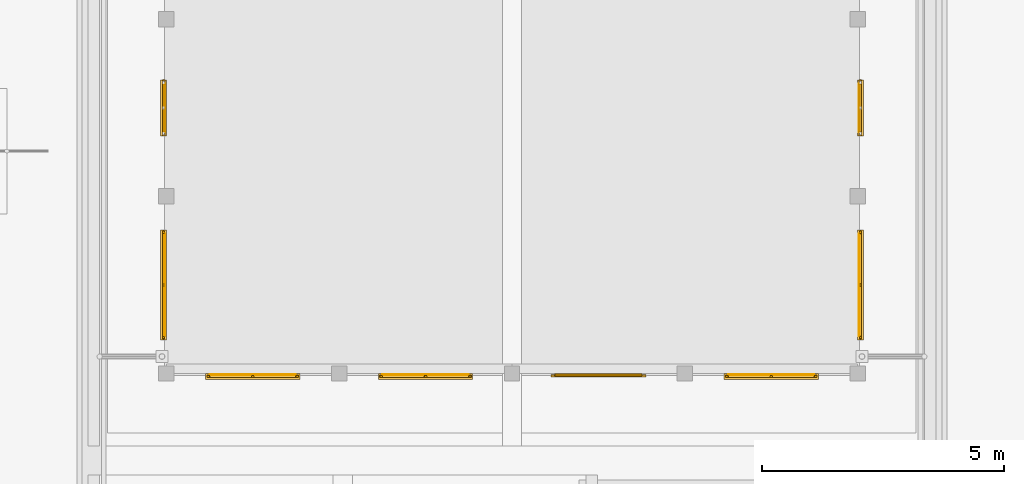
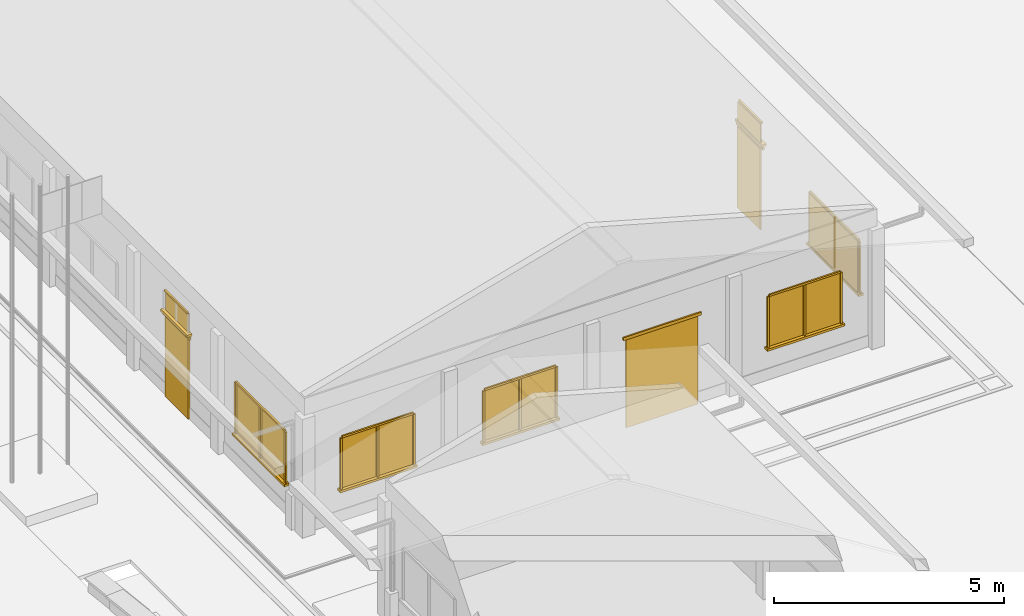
# One storey, part 53 of 177: 36 windows, 6 doors.
"""IFC4 building model written with IfcOpenShell, lengths in metres."""

from ifc_helpers import new_model, si_unit, origin, origin_with_axes, place, context, subcontext, project, spatial, triangles, element, save


model = new_model("IFC4")

# Units and contexts
model_context = context("Model", 3, precision=1e-05, world=origin_with_axes())
body_context = subcontext(model_context, "Body", "Model", "MODEL_VIEW")
ifc_project = project(units=[si_unit("LENGTHUNIT", "METRE"), si_unit("AREAUNIT", "SQUARE_METRE"), si_unit("VOLUMEUNIT", "CUBIC_METRE"), si_unit("PLANEANGLEUNIT", "RADIAN")], contexts=[model_context])

# Site, building, storey
site_placement = place(None, origin_with_axes())
site = spatial("IfcSite", under=ifc_project, at=site_placement, Name="Predio Los Mangos - Morales, San Martín", CompositionType="ELEMENT")
building_placement = place(site_placement, origin())
building = spatial("IfcBuilding", under=site, at=building_placement, Name="Hogar de Refugio Temporal", CompositionType="ELEMENT")
storey_placement = place(building_placement, origin())
storey = spatial("IfcBuildingStorey", under=building, at=storey_placement, Name="NIVEL 1 (NPT +0.00)", CompositionType="ELEMENT", Elevation=0.0)

# Windows
window_1_placement = place(storey_placement, origin())
element("IfcWindow", 1, at=window_1_placement, inside=storey, Name="E-05_vg0_vid", ObjectType="Ventana", PredefinedType="WINDOW", context=body_context, shape_type="Tessellation", body=[
    triangles([(46.1937, 57.86, 1.05), (47.9813, 57.86, 1.05), (47.9813, 57.88, 1.05), (46.1937, 57.88, 1.05), (46.1937, 57.86, 2.4), (47.9813, 57.86, 2.4), (47.9813, 57.88, 2.4), (46.1937, 57.88, 2.4)], [[1, 4, 3], [1, 3, 2], [5, 6, 7], [5, 7, 8], [1, 2, 6], [1, 6, 5], [2, 3, 7], [2, 7, 6], [3, 4, 8], [3, 8, 7], [4, 1, 5], [4, 5, 8]]),
])
window_2_placement = place(storey_placement, origin())
element("IfcWindow", 2, at=window_2_placement, inside=storey, Name="E-05_vg0_m", ObjectType="Ventana", PredefinedType="WINDOW", context=body_context, shape_type="Tessellation", body=[
    triangles([(46.1437, 57.82, 1.05), (46.1937, 57.82, 1.05), (46.1937, 57.86, 1.05), (46.1437, 57.86, 1.05), (46.1437, 57.82, 2.4), (46.1937, 57.82, 2.4), (46.1937, 57.86, 2.4), (46.1437, 57.86, 2.4)], [[1, 4, 3], [1, 3, 2], [5, 6, 7], [5, 7, 8], [1, 2, 6], [1, 6, 5], [2, 3, 7], [2, 7, 6], [3, 4, 8], [3, 8, 7], [4, 1, 5], [4, 5, 8]]),
])
window_3_placement = place(storey_placement, origin())
element("IfcWindow", 3, at=window_3_placement, inside=storey, Name="E-05_vg0_m", ObjectType="Ventana", PredefinedType="WINDOW", context=body_context, shape_type="Tessellation", body=[
    triangles([(47.9813, 57.82, 1.05), (48.0312, 57.82, 1.05), (48.0312, 57.86, 1.05), (47.9813, 57.86, 1.05), (47.9813, 57.82, 2.4), (48.0312, 57.82, 2.4), (48.0312, 57.86, 2.4), (47.9813, 57.86, 2.4)], [[1, 4, 3], [1, 3, 2], [5, 6, 7], [5, 7, 8], [1, 2, 6], [1, 6, 5], [2, 3, 7], [2, 7, 6], [3, 4, 8], [3, 8, 7], [4, 1, 5], [4, 5, 8]]),
])
window_4_placement = place(storey_placement, origin())
element("IfcWindow", 4, at=window_4_placement, inside=storey, Name="E-05_vg0_m", ObjectType="Ventana", PredefinedType="WINDOW", context=body_context, shape_type="Tessellation", body=[
    triangles([(46.1937, 57.82, 2.4), (47.9813, 57.82, 2.4), (47.9813, 57.86, 2.4), (46.1937, 57.86, 2.4), (46.1937, 57.82, 2.45), (47.9813, 57.82, 2.45), (47.9813, 57.86, 2.45), (46.1937, 57.86, 2.45)], [[1, 4, 3], [1, 3, 2], [5, 6, 7], [5, 7, 8], [1, 2, 6], [1, 6, 5], [2, 3, 7], [2, 7, 6], [3, 4, 8], [3, 8, 7], [4, 1, 5], [4, 5, 8]]),
])
window_5_placement = place(storey_placement, origin())
element("IfcWindow", 5, at=window_5_placement, inside=storey, Name="E-05_vg0_m", ObjectType="Ventana", PredefinedType="WINDOW", context=body_context, shape_type="Tessellation", body=[
    triangles([(47.0625, 57.82, 1.05), (47.1125, 57.82, 1.05), (47.1125, 57.86, 1.05), (47.0625, 57.86, 1.05), (47.0625, 57.82, 2.4), (47.1125, 57.82, 2.4), (47.1125, 57.86, 2.4), (47.0625, 57.86, 2.4)], [[1, 4, 3], [1, 3, 2], [5, 6, 7], [5, 7, 8], [1, 2, 6], [1, 6, 5], [2, 3, 7], [2, 7, 6], [3, 4, 8], [3, 8, 7], [4, 1, 5], [4, 5, 8]]),
])
window_6_placement = place(storey_placement, origin())
element("IfcWindow", 6, at=window_6_placement, inside=storey, Name="E-05_vg0_alf", ObjectType="Ventana", PredefinedType="WINDOW", context=body_context, shape_type="Tessellation", body=[
    triangles([(46.1138, 57.9, 0.99), (48.0612, 57.9, 0.99), (48.0612, 57.78, 0.99), (46.1138, 57.78, 0.99), (46.1138, 57.9, 1.05), (48.0612, 57.9, 1.05), (48.0612, 57.78, 1.05), (46.1138, 57.78, 1.05)], [[1, 4, 3], [1, 3, 2], [5, 6, 7], [5, 7, 8], [1, 2, 6], [1, 6, 5], [2, 3, 7], [2, 7, 6], [3, 4, 8], [3, 8, 7], [4, 1, 5], [4, 5, 8]]),
])
window_7_placement = place(storey_placement, origin())
element("IfcWindow", 7, at=window_7_placement, inside=storey, Name="E-05_vg1_vid", ObjectType="Ventana", PredefinedType="WINDOW", context=body_context, shape_type="Tessellation", body=[
    triangles([(49.7687, 57.86, 1.05), (51.5563, 57.86, 1.05), (51.5563, 57.88, 1.05), (49.7687, 57.88, 1.05), (49.7687, 57.86, 2.4), (51.5563, 57.86, 2.4), (51.5563, 57.88, 2.4), (49.7687, 57.88, 2.4)], [[1, 4, 3], [1, 3, 2], [5, 6, 7], [5, 7, 8], [1, 2, 6], [1, 6, 5], [2, 3, 7], [2, 7, 6], [3, 4, 8], [3, 8, 7], [4, 1, 5], [4, 5, 8]]),
])
window_8_placement = place(storey_placement, origin())
element("IfcWindow", 8, at=window_8_placement, inside=storey, Name="E-05_vg1_m", ObjectType="Ventana", PredefinedType="WINDOW", context=body_context, shape_type="Tessellation", body=[
    triangles([(49.7188, 57.82, 1.05), (49.7687, 57.82, 1.05), (49.7687, 57.86, 1.05), (49.7188, 57.86, 1.05), (49.7188, 57.82, 2.4), (49.7687, 57.82, 2.4), (49.7687, 57.86, 2.4), (49.7188, 57.86, 2.4)], [[1, 4, 3], [1, 3, 2], [5, 6, 7], [5, 7, 8], [1, 2, 6], [1, 6, 5], [2, 3, 7], [2, 7, 6], [3, 4, 8], [3, 8, 7], [4, 1, 5], [4, 5, 8]]),
])
window_9_placement = place(storey_placement, origin())
element("IfcWindow", 9, at=window_9_placement, inside=storey, Name="E-05_vg1_m", ObjectType="Ventana", PredefinedType="WINDOW", context=body_context, shape_type="Tessellation", body=[
    triangles([(51.5563, 57.82, 1.05), (51.6063, 57.82, 1.05), (51.6063, 57.86, 1.05), (51.5563, 57.86, 1.05), (51.5563, 57.82, 2.4), (51.6063, 57.82, 2.4), (51.6063, 57.86, 2.4), (51.5563, 57.86, 2.4)], [[1, 4, 3], [1, 3, 2], [5, 6, 7], [5, 7, 8], [1, 2, 6], [1, 6, 5], [2, 3, 7], [2, 7, 6], [3, 4, 8], [3, 8, 7], [4, 1, 5], [4, 5, 8]]),
])
window_10_placement = place(storey_placement, origin())
element("IfcWindow", 10, at=window_10_placement, inside=storey, Name="E-05_vg1_m", ObjectType="Ventana", PredefinedType="WINDOW", context=body_context, shape_type="Tessellation", body=[
    triangles([(49.7687, 57.82, 2.4), (51.5563, 57.82, 2.4), (51.5563, 57.86, 2.4), (49.7687, 57.86, 2.4), (49.7687, 57.82, 2.45), (51.5563, 57.82, 2.45), (51.5563, 57.86, 2.45), (49.7687, 57.86, 2.45)], [[1, 4, 3], [1, 3, 2], [5, 6, 7], [5, 7, 8], [1, 2, 6], [1, 6, 5], [2, 3, 7], [2, 7, 6], [3, 4, 8], [3, 8, 7], [4, 1, 5], [4, 5, 8]]),
])
window_11_placement = place(storey_placement, origin())
element("IfcWindow", 11, at=window_11_placement, inside=storey, Name="E-05_vg1_m", ObjectType="Ventana", PredefinedType="WINDOW", context=body_context, shape_type="Tessellation", body=[
    triangles([(50.6375, 57.82, 1.05), (50.6875, 57.82, 1.05), (50.6875, 57.86, 1.05), (50.6375, 57.86, 1.05), (50.6375, 57.82, 2.4), (50.6875, 57.82, 2.4), (50.6875, 57.86, 2.4), (50.6375, 57.86, 2.4)], [[1, 4, 3], [1, 3, 2], [5, 6, 7], [5, 7, 8], [1, 2, 6], [1, 6, 5], [2, 3, 7], [2, 7, 6], [3, 4, 8], [3, 8, 7], [4, 1, 5], [4, 5, 8]]),
])
window_12_placement = place(storey_placement, origin())
element("IfcWindow", 12, at=window_12_placement, inside=storey, Name="E-05_vg1_alf", ObjectType="Ventana", PredefinedType="WINDOW", context=body_context, shape_type="Tessellation", body=[
    triangles([(49.6888, 57.9, 0.99), (51.6362, 57.9, 0.99), (51.6362, 57.78, 0.99), (49.6888, 57.78, 0.99), (49.6888, 57.9, 1.05), (51.6362, 57.9, 1.05), (51.6362, 57.78, 1.05), (49.6888, 57.78, 1.05)], [[1, 4, 3], [1, 3, 2], [5, 6, 7], [5, 7, 8], [1, 2, 6], [1, 6, 5], [2, 3, 7], [2, 7, 6], [3, 4, 8], [3, 8, 7], [4, 1, 5], [4, 5, 8]]),
])

# Doors
door_1_placement = place(storey_placement, origin())
element("IfcDoor", 13, at=door_1_placement, inside=storey, Name="E-05_pp", ObjectType="Puerta", PredefinedType="DOOR", context=body_context, shape_type="Tessellation", body=[
    triangles([(53.3375, 57.85, 0.15), (55.1375, 57.85, 0.15), (55.1375, 57.89, 0.15), (53.3375, 57.89, 0.15), (53.3375, 57.85, 2.5), (55.1375, 57.85, 2.5), (55.1375, 57.89, 2.5), (53.3375, 57.89, 2.5)], [[1, 4, 3], [1, 3, 2], [5, 6, 7], [5, 7, 8], [1, 2, 6], [1, 6, 5], [2, 3, 7], [2, 7, 6], [3, 4, 8], [3, 8, 7], [4, 1, 5], [4, 5, 8]]),
])
door_2_placement = place(storey_placement, origin())
element("IfcDoor", 14, at=door_2_placement, inside=storey, Name="E-05_pp_marco", ObjectType="Puerta", PredefinedType="DOOR", context=body_context, shape_type="Tessellation", body=[
    triangles([(53.2575, 57.83, 2.5), (55.2175, 57.83, 2.5), (55.2175, 57.87, 2.5), (53.2575, 57.87, 2.5), (53.2575, 57.83, 2.58), (55.2175, 57.83, 2.58), (55.2175, 57.87, 2.58), (53.2575, 57.87, 2.58)], [[1, 4, 3], [1, 3, 2], [5, 6, 7], [5, 7, 8], [1, 2, 6], [1, 6, 5], [2, 3, 7], [2, 7, 6], [3, 4, 8], [3, 8, 7], [4, 1, 5], [4, 5, 8]]),
])

# Windows
window_13_placement = place(storey_placement, origin())
element("IfcWindow", 15, at=window_13_placement, inside=storey, Name="E-05_vg3_vid", ObjectType="Ventana", PredefinedType="WINDOW", context=body_context, shape_type="Tessellation", body=[
    triangles([(56.9188, 57.86, 1.05), (58.7062, 57.86, 1.05), (58.7062, 57.88, 1.05), (56.9188, 57.88, 1.05), (56.9188, 57.86, 2.4), (58.7062, 57.86, 2.4), (58.7062, 57.88, 2.4), (56.9188, 57.88, 2.4)], [[1, 4, 3], [1, 3, 2], [5, 6, 7], [5, 7, 8], [1, 2, 6], [1, 6, 5], [2, 3, 7], [2, 7, 6], [3, 4, 8], [3, 8, 7], [4, 1, 5], [4, 5, 8]]),
])
window_14_placement = place(storey_placement, origin())
element("IfcWindow", 16, at=window_14_placement, inside=storey, Name="E-05_vg3_m", ObjectType="Ventana", PredefinedType="WINDOW", context=body_context, shape_type="Tessellation", body=[
    triangles([(56.8688, 57.82, 1.05), (56.9188, 57.82, 1.05), (56.9188, 57.86, 1.05), (56.8688, 57.86, 1.05), (56.8688, 57.82, 2.4), (56.9188, 57.82, 2.4), (56.9188, 57.86, 2.4), (56.8688, 57.86, 2.4)], [[1, 4, 3], [1, 3, 2], [5, 6, 7], [5, 7, 8], [1, 2, 6], [1, 6, 5], [2, 3, 7], [2, 7, 6], [3, 4, 8], [3, 8, 7], [4, 1, 5], [4, 5, 8]]),
])
window_15_placement = place(storey_placement, origin())
element("IfcWindow", 17, at=window_15_placement, inside=storey, Name="E-05_vg3_m", ObjectType="Ventana", PredefinedType="WINDOW", context=body_context, shape_type="Tessellation", body=[
    triangles([(58.7062, 57.82, 1.05), (58.7562, 57.82, 1.05), (58.7562, 57.86, 1.05), (58.7062, 57.86, 1.05), (58.7062, 57.82, 2.4), (58.7562, 57.82, 2.4), (58.7562, 57.86, 2.4), (58.7062, 57.86, 2.4)], [[1, 4, 3], [1, 3, 2], [5, 6, 7], [5, 7, 8], [1, 2, 6], [1, 6, 5], [2, 3, 7], [2, 7, 6], [3, 4, 8], [3, 8, 7], [4, 1, 5], [4, 5, 8]]),
])
window_16_placement = place(storey_placement, origin())
element("IfcWindow", 18, at=window_16_placement, inside=storey, Name="E-05_vg3_m", ObjectType="Ventana", PredefinedType="WINDOW", context=body_context, shape_type="Tessellation", body=[
    triangles([(56.9188, 57.82, 2.4), (58.7062, 57.82, 2.4), (58.7062, 57.86, 2.4), (56.9188, 57.86, 2.4), (56.9188, 57.82, 2.45), (58.7062, 57.82, 2.45), (58.7062, 57.86, 2.45), (56.9188, 57.86, 2.45)], [[1, 4, 3], [1, 3, 2], [5, 6, 7], [5, 7, 8], [1, 2, 6], [1, 6, 5], [2, 3, 7], [2, 7, 6], [3, 4, 8], [3, 8, 7], [4, 1, 5], [4, 5, 8]]),
])
window_17_placement = place(storey_placement, origin())
element("IfcWindow", 19, at=window_17_placement, inside=storey, Name="E-05_vg3_m", ObjectType="Ventana", PredefinedType="WINDOW", context=body_context, shape_type="Tessellation", body=[
    triangles([(57.7875, 57.82, 1.05), (57.8375, 57.82, 1.05), (57.8375, 57.86, 1.05), (57.7875, 57.86, 1.05), (57.7875, 57.82, 2.4), (57.8375, 57.82, 2.4), (57.8375, 57.86, 2.4), (57.7875, 57.86, 2.4)], [[1, 4, 3], [1, 3, 2], [5, 6, 7], [5, 7, 8], [1, 2, 6], [1, 6, 5], [2, 3, 7], [2, 7, 6], [3, 4, 8], [3, 8, 7], [4, 1, 5], [4, 5, 8]]),
])
window_18_placement = place(storey_placement, origin())
element("IfcWindow", 20, at=window_18_placement, inside=storey, Name="E-05_vg3_alf", ObjectType="Ventana", PredefinedType="WINDOW", context=body_context, shape_type="Tessellation", body=[
    triangles([(56.8387, 57.9, 0.99), (58.7863, 57.9, 0.99), (58.7863, 57.78, 0.99), (56.8387, 57.78, 0.99), (56.8387, 57.9, 1.05), (58.7863, 57.9, 1.05), (58.7863, 57.78, 1.05), (56.8387, 57.78, 1.05)], [[1, 4, 3], [1, 3, 2], [5, 6, 7], [5, 7, 8], [1, 2, 6], [1, 6, 5], [2, 3, 7], [2, 7, 6], [3, 4, 8], [3, 8, 7], [4, 1, 5], [4, 5, 8]]),
])
window_19_placement = place(storey_placement, origin())
element("IfcWindow", 21, at=window_19_placement, inside=storey, Name="E-05_v0_vid", ObjectType="Ventana", PredefinedType="WINDOW", context=body_context, shape_type="Tessellation", body=[
    triangles([(45.26, 58.6691, 1.05), (45.28, 58.6691, 1.05), (45.28, 60.7934, 1.05), (45.26, 60.7934, 1.05), (45.26, 58.6691, 2.4), (45.28, 58.6691, 2.4), (45.28, 60.7934, 2.4), (45.26, 60.7934, 2.4)], [[1, 4, 3], [1, 3, 2], [5, 6, 7], [5, 7, 8], [1, 2, 6], [1, 6, 5], [2, 3, 7], [2, 7, 6], [3, 4, 8], [3, 8, 7], [4, 1, 5], [4, 5, 8]]),
])
window_20_placement = place(storey_placement, origin())
element("IfcWindow", 22, at=window_20_placement, inside=storey, Name="E-05_v0_m", ObjectType="Ventana", PredefinedType="WINDOW", context=body_context, shape_type="Tessellation", body=[
    triangles([(45.22, 58.6191, 1.05), (45.26, 58.6191, 1.05), (45.26, 58.6691, 1.05), (45.22, 58.6691, 1.05), (45.22, 58.6191, 2.4), (45.26, 58.6191, 2.4), (45.26, 58.6691, 2.4), (45.22, 58.6691, 2.4)], [[1, 4, 3], [1, 3, 2], [5, 6, 7], [5, 7, 8], [1, 2, 6], [1, 6, 5], [2, 3, 7], [2, 7, 6], [3, 4, 8], [3, 8, 7], [4, 1, 5], [4, 5, 8]]),
])
window_21_placement = place(storey_placement, origin())
element("IfcWindow", 23, at=window_21_placement, inside=storey, Name="E-05_v0_m", ObjectType="Ventana", PredefinedType="WINDOW", context=body_context, shape_type="Tessellation", body=[
    triangles([(45.22, 60.7934, 1.05), (45.26, 60.7934, 1.05), (45.26, 60.8434, 1.05), (45.22, 60.8434, 1.05), (45.22, 60.7934, 2.4), (45.26, 60.7934, 2.4), (45.26, 60.8434, 2.4), (45.22, 60.8434, 2.4)], [[1, 4, 3], [1, 3, 2], [5, 6, 7], [5, 7, 8], [1, 2, 6], [1, 6, 5], [2, 3, 7], [2, 7, 6], [3, 4, 8], [3, 8, 7], [4, 1, 5], [4, 5, 8]]),
])
window_22_placement = place(storey_placement, origin())
element("IfcWindow", 24, at=window_22_placement, inside=storey, Name="E-05_v0_m", ObjectType="Ventana", PredefinedType="WINDOW", context=body_context, shape_type="Tessellation", body=[
    triangles([(45.22, 58.6691, 2.4), (45.26, 58.6691, 2.4), (45.26, 60.7934, 2.4), (45.22, 60.7934, 2.4), (45.22, 58.6691, 2.45), (45.26, 58.6691, 2.45), (45.26, 60.7934, 2.45), (45.22, 60.7934, 2.45)], [[1, 4, 3], [1, 3, 2], [5, 6, 7], [5, 7, 8], [1, 2, 6], [1, 6, 5], [2, 3, 7], [2, 7, 6], [3, 4, 8], [3, 8, 7], [4, 1, 5], [4, 5, 8]]),
])
window_23_placement = place(storey_placement, origin())
element("IfcWindow", 25, at=window_23_placement, inside=storey, Name="E-05_v0_m", ObjectType="Ventana", PredefinedType="WINDOW", context=body_context, shape_type="Tessellation", body=[
    triangles([(45.22, 59.7062, 1.05), (45.26, 59.7062, 1.05), (45.26, 59.7562, 1.05), (45.22, 59.7562, 1.05), (45.22, 59.7062, 2.4), (45.26, 59.7062, 2.4), (45.26, 59.7562, 2.4), (45.22, 59.7562, 2.4)], [[1, 4, 3], [1, 3, 2], [5, 6, 7], [5, 7, 8], [1, 2, 6], [1, 6, 5], [2, 3, 7], [2, 7, 6], [3, 4, 8], [3, 8, 7], [4, 1, 5], [4, 5, 8]]),
])
window_24_placement = place(storey_placement, origin())
element("IfcWindow", 26, at=window_24_placement, inside=storey, Name="E-05_v0_alf", ObjectType="Ventana", PredefinedType="WINDOW", context=body_context, shape_type="Tessellation", body=[
    triangles([(45.3, 58.5891, 0.99), (45.18, 58.5891, 0.99), (45.18, 60.8734, 0.99), (45.3, 60.8734, 0.99), (45.3, 58.5891, 1.05), (45.18, 58.5891, 1.05), (45.18, 60.8734, 1.05), (45.3, 60.8734, 1.05)], [[1, 4, 3], [1, 3, 2], [5, 6, 7], [5, 7, 8], [1, 2, 6], [1, 6, 5], [2, 3, 7], [2, 7, 6], [3, 4, 8], [3, 8, 7], [4, 1, 5], [4, 5, 8]]),
])

# Doors
door_3_placement = place(storey_placement, origin())
element("IfcDoor", 27, at=door_3_placement, inside=storey, Name="E-05_p1", ObjectType="Puerta", PredefinedType="DOOR", context=body_context, shape_type="Tessellation", body=[
    triangles([(45.25, 62.8937, 0.15), (45.29, 62.8937, 0.15), (45.29, 63.8937, 0.15), (45.25, 63.8937, 0.15), (45.25, 62.8937, 2.3), (45.29, 62.8937, 2.3), (45.29, 63.8937, 2.3), (45.25, 63.8937, 2.3)], [[1, 4, 3], [1, 3, 2], [5, 6, 7], [5, 7, 8], [1, 2, 6], [1, 6, 5], [2, 3, 7], [2, 7, 6], [3, 4, 8], [3, 8, 7], [4, 1, 5], [4, 5, 8]]),
])
door_4_placement = place(storey_placement, origin())
element("IfcDoor", 28, at=door_4_placement, inside=storey, Name="E-05_p1_marco", ObjectType="Puerta", PredefinedType="DOOR", context=body_context, shape_type="Tessellation", body=[
    triangles([(45.23, 62.8138, 2.3), (45.27, 62.8138, 2.3), (45.27, 63.9738, 2.3), (45.23, 63.9738, 2.3), (45.23, 62.8138, 2.38), (45.27, 62.8138, 2.38), (45.27, 63.9738, 2.38), (45.23, 63.9738, 2.38)], [[1, 4, 3], [1, 3, 2], [5, 6, 7], [5, 7, 8], [1, 2, 6], [1, 6, 5], [2, 3, 7], [2, 7, 6], [3, 4, 8], [3, 8, 7], [4, 1, 5], [4, 5, 8]]),
])

# Windows
window_25_placement = place(storey_placement, origin())
element("IfcWindow", 29, at=window_25_placement, inside=storey, Name="E-05_vt1_vid", ObjectType="Ventana", PredefinedType="WINDOW", context=body_context, shape_type="Tessellation", body=[
    triangles([(45.26, 62.8937, 2.45), (45.28, 62.8937, 2.45), (45.28, 63.8937, 2.45), (45.26, 63.8937, 2.45), (45.26, 62.8937, 2.95), (45.28, 62.8937, 2.95), (45.28, 63.8937, 2.95), (45.26, 63.8937, 2.95)], [[1, 4, 3], [1, 3, 2], [5, 6, 7], [5, 7, 8], [1, 2, 6], [1, 6, 5], [2, 3, 7], [2, 7, 6], [3, 4, 8], [3, 8, 7], [4, 1, 5], [4, 5, 8]]),
])
window_26_placement = place(storey_placement, origin())
element("IfcWindow", 30, at=window_26_placement, inside=storey, Name="E-05_vt1_m", ObjectType="Ventana", PredefinedType="WINDOW", context=body_context, shape_type="Tessellation", body=[
    triangles([(45.22, 62.8937, 2.95), (45.26, 62.8937, 2.95), (45.26, 63.8937, 2.95), (45.22, 63.8937, 2.95), (45.22, 62.8937, 3.0), (45.26, 62.8937, 3.0), (45.26, 63.8937, 3.0), (45.22, 63.8937, 3.0)], [[1, 4, 3], [1, 3, 2], [5, 6, 7], [5, 7, 8], [1, 2, 6], [1, 6, 5], [2, 3, 7], [2, 7, 6], [3, 4, 8], [3, 8, 7], [4, 1, 5], [4, 5, 8]]),
])
window_27_placement = place(storey_placement, origin())
element("IfcWindow", 31, at=window_27_placement, inside=storey, Name="E-05_vt1_alf", ObjectType="Ventana", PredefinedType="WINDOW", context=body_context, shape_type="Tessellation", body=[
    triangles([(45.3, 62.8138, 2.39), (45.18, 62.8138, 2.39), (45.18, 63.9738, 2.39), (45.3, 63.9738, 2.39), (45.3, 62.8138, 2.45), (45.18, 62.8138, 2.45), (45.18, 63.9738, 2.45), (45.3, 63.9738, 2.45)], [[1, 4, 3], [1, 3, 2], [5, 6, 7], [5, 7, 8], [1, 2, 6], [1, 6, 5], [2, 3, 7], [2, 7, 6], [3, 4, 8], [3, 8, 7], [4, 1, 5], [4, 5, 8]]),
])
window_28_placement = place(storey_placement, origin())
element("IfcWindow", 32, at=window_28_placement, inside=storey, Name="E-05_v0_vid", ObjectType="Ventana", PredefinedType="WINDOW", context=body_context, shape_type="Tessellation", body=[
    triangles([(59.62, 58.6691, 1.05), (59.64, 58.6691, 1.05), (59.64, 60.7934, 1.05), (59.62, 60.7934, 1.05), (59.62, 58.6691, 2.4), (59.64, 58.6691, 2.4), (59.64, 60.7934, 2.4), (59.62, 60.7934, 2.4)], [[1, 4, 3], [1, 3, 2], [5, 6, 7], [5, 7, 8], [1, 2, 6], [1, 6, 5], [2, 3, 7], [2, 7, 6], [3, 4, 8], [3, 8, 7], [4, 1, 5], [4, 5, 8]]),
])
window_29_placement = place(storey_placement, origin())
element("IfcWindow", 33, at=window_29_placement, inside=storey, Name="E-05_v0_m", ObjectType="Ventana", PredefinedType="WINDOW", context=body_context, shape_type="Tessellation", body=[
    triangles([(59.64, 58.6191, 1.05), (59.68, 58.6191, 1.05), (59.68, 58.6691, 1.05), (59.64, 58.6691, 1.05), (59.64, 58.6191, 2.4), (59.68, 58.6191, 2.4), (59.68, 58.6691, 2.4), (59.64, 58.6691, 2.4)], [[1, 4, 3], [1, 3, 2], [5, 6, 7], [5, 7, 8], [1, 2, 6], [1, 6, 5], [2, 3, 7], [2, 7, 6], [3, 4, 8], [3, 8, 7], [4, 1, 5], [4, 5, 8]]),
])
window_30_placement = place(storey_placement, origin())
element("IfcWindow", 34, at=window_30_placement, inside=storey, Name="E-05_v0_m", ObjectType="Ventana", PredefinedType="WINDOW", context=body_context, shape_type="Tessellation", body=[
    triangles([(59.64, 60.7934, 1.05), (59.68, 60.7934, 1.05), (59.68, 60.8434, 1.05), (59.64, 60.8434, 1.05), (59.64, 60.7934, 2.4), (59.68, 60.7934, 2.4), (59.68, 60.8434, 2.4), (59.64, 60.8434, 2.4)], [[1, 4, 3], [1, 3, 2], [5, 6, 7], [5, 7, 8], [1, 2, 6], [1, 6, 5], [2, 3, 7], [2, 7, 6], [3, 4, 8], [3, 8, 7], [4, 1, 5], [4, 5, 8]]),
])
window_31_placement = place(storey_placement, origin())
element("IfcWindow", 35, at=window_31_placement, inside=storey, Name="E-05_v0_m", ObjectType="Ventana", PredefinedType="WINDOW", context=body_context, shape_type="Tessellation", body=[
    triangles([(59.64, 58.6691, 2.4), (59.68, 58.6691, 2.4), (59.68, 60.7934, 2.4), (59.64, 60.7934, 2.4), (59.64, 58.6691, 2.45), (59.68, 58.6691, 2.45), (59.68, 60.7934, 2.45), (59.64, 60.7934, 2.45)], [[1, 4, 3], [1, 3, 2], [5, 6, 7], [5, 7, 8], [1, 2, 6], [1, 6, 5], [2, 3, 7], [2, 7, 6], [3, 4, 8], [3, 8, 7], [4, 1, 5], [4, 5, 8]]),
])
window_32_placement = place(storey_placement, origin())
element("IfcWindow", 36, at=window_32_placement, inside=storey, Name="E-05_v0_m", ObjectType="Ventana", PredefinedType="WINDOW", context=body_context, shape_type="Tessellation", body=[
    triangles([(59.64, 59.7062, 1.05), (59.68, 59.7062, 1.05), (59.68, 59.7562, 1.05), (59.64, 59.7562, 1.05), (59.64, 59.7062, 2.4), (59.68, 59.7062, 2.4), (59.68, 59.7562, 2.4), (59.64, 59.7562, 2.4)], [[1, 4, 3], [1, 3, 2], [5, 6, 7], [5, 7, 8], [1, 2, 6], [1, 6, 5], [2, 3, 7], [2, 7, 6], [3, 4, 8], [3, 8, 7], [4, 1, 5], [4, 5, 8]]),
])
window_33_placement = place(storey_placement, origin())
element("IfcWindow", 37, at=window_33_placement, inside=storey, Name="E-05_v0_alf", ObjectType="Ventana", PredefinedType="WINDOW", context=body_context, shape_type="Tessellation", body=[
    triangles([(59.6, 58.5891, 0.99), (59.72, 58.5891, 0.99), (59.72, 60.8734, 0.99), (59.6, 60.8734, 0.99), (59.6, 58.5891, 1.05), (59.72, 58.5891, 1.05), (59.72, 60.8734, 1.05), (59.6, 60.8734, 1.05)], [[1, 4, 3], [1, 3, 2], [5, 6, 7], [5, 7, 8], [1, 2, 6], [1, 6, 5], [2, 3, 7], [2, 7, 6], [3, 4, 8], [3, 8, 7], [4, 1, 5], [4, 5, 8]]),
])

# Doors
door_5_placement = place(storey_placement, origin())
element("IfcDoor", 38, at=door_5_placement, inside=storey, Name="E-05_p1", ObjectType="Puerta", PredefinedType="DOOR", context=body_context, shape_type="Tessellation", body=[
    triangles([(59.61, 62.8937, 0.15), (59.65, 62.8937, 0.15), (59.65, 63.8937, 0.15), (59.61, 63.8937, 0.15), (59.61, 62.8937, 2.3), (59.65, 62.8937, 2.3), (59.65, 63.8937, 2.3), (59.61, 63.8937, 2.3)], [[1, 4, 3], [1, 3, 2], [5, 6, 7], [5, 7, 8], [1, 2, 6], [1, 6, 5], [2, 3, 7], [2, 7, 6], [3, 4, 8], [3, 8, 7], [4, 1, 5], [4, 5, 8]]),
])
door_6_placement = place(storey_placement, origin())
element("IfcDoor", 39, at=door_6_placement, inside=storey, Name="E-05_p1_marco", ObjectType="Puerta", PredefinedType="DOOR", context=body_context, shape_type="Tessellation", body=[
    triangles([(59.63, 62.8138, 2.3), (59.67, 62.8138, 2.3), (59.67, 63.9738, 2.3), (59.63, 63.9738, 2.3), (59.63, 62.8138, 2.38), (59.67, 62.8138, 2.38), (59.67, 63.9738, 2.38), (59.63, 63.9738, 2.38)], [[1, 4, 3], [1, 3, 2], [5, 6, 7], [5, 7, 8], [1, 2, 6], [1, 6, 5], [2, 3, 7], [2, 7, 6], [3, 4, 8], [3, 8, 7], [4, 1, 5], [4, 5, 8]]),
])

# Windows
window_34_placement = place(storey_placement, origin())
element("IfcWindow", 40, at=window_34_placement, inside=storey, Name="E-05_vt1_vid", ObjectType="Ventana", PredefinedType="WINDOW", context=body_context, shape_type="Tessellation", body=[
    triangles([(59.62, 62.8937, 2.45), (59.64, 62.8937, 2.45), (59.64, 63.8937, 2.45), (59.62, 63.8937, 2.45), (59.62, 62.8937, 2.95), (59.64, 62.8937, 2.95), (59.64, 63.8937, 2.95), (59.62, 63.8937, 2.95)], [[1, 4, 3], [1, 3, 2], [5, 6, 7], [5, 7, 8], [1, 2, 6], [1, 6, 5], [2, 3, 7], [2, 7, 6], [3, 4, 8], [3, 8, 7], [4, 1, 5], [4, 5, 8]]),
])
window_35_placement = place(storey_placement, origin())
element("IfcWindow", 41, at=window_35_placement, inside=storey, Name="E-05_vt1_m", ObjectType="Ventana", PredefinedType="WINDOW", context=body_context, shape_type="Tessellation", body=[
    triangles([(59.64, 62.8937, 2.95), (59.68, 62.8937, 2.95), (59.68, 63.8937, 2.95), (59.64, 63.8937, 2.95), (59.64, 62.8937, 3.0), (59.68, 62.8937, 3.0), (59.68, 63.8937, 3.0), (59.64, 63.8937, 3.0)], [[1, 4, 3], [1, 3, 2], [5, 6, 7], [5, 7, 8], [1, 2, 6], [1, 6, 5], [2, 3, 7], [2, 7, 6], [3, 4, 8], [3, 8, 7], [4, 1, 5], [4, 5, 8]]),
])
window_36_placement = place(storey_placement, origin())
element("IfcWindow", 42, at=window_36_placement, inside=storey, Name="E-05_vt1_alf", ObjectType="Ventana", PredefinedType="WINDOW", context=body_context, shape_type="Tessellation", body=[
    triangles([(59.6, 62.8138, 2.39), (59.72, 62.8138, 2.39), (59.72, 63.9738, 2.39), (59.6, 63.9738, 2.39), (59.6, 62.8138, 2.45), (59.72, 62.8138, 2.45), (59.72, 63.9738, 2.45), (59.6, 63.9738, 2.45)], [[1, 4, 3], [1, 3, 2], [5, 6, 7], [5, 7, 8], [1, 2, 6], [1, 6, 5], [2, 3, 7], [2, 7, 6], [3, 4, 8], [3, 8, 7], [4, 1, 5], [4, 5, 8]]),
])

save(model, "model.ifc")
